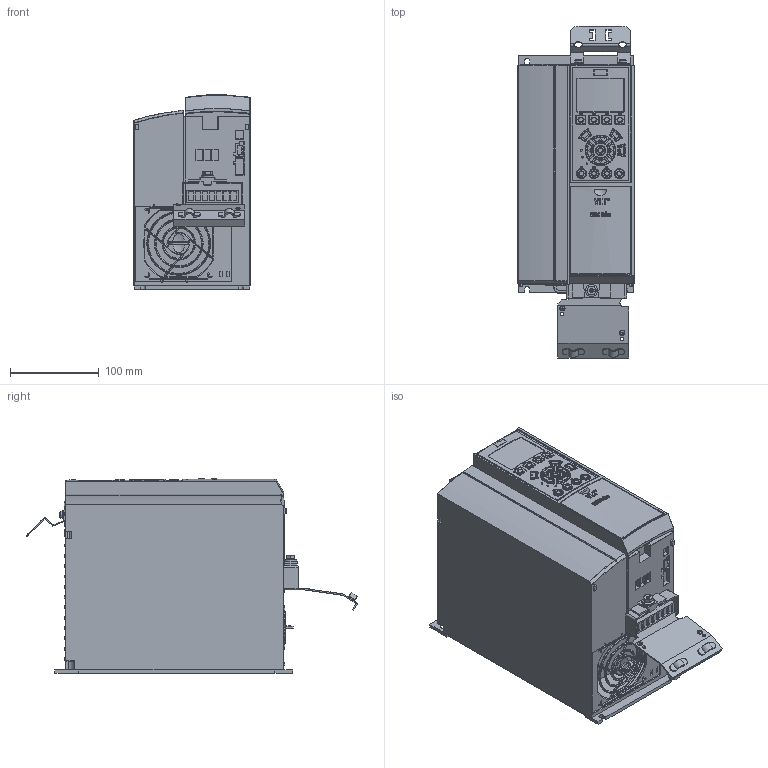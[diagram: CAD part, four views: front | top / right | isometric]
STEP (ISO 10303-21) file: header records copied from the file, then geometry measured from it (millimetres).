
FILE_DESCRIPTION((''),'2;1');
FILE_NAME('DANFOSS-FC100-A3-IP20-A-086','2007-03-14T',('VIJAYANANDG'),('dan Drives A/S'),'PRO/ENGINEER BY PARAMETRIC TECHNOLOGY CORPORATION, 2006200','PRO/ENGINEER BY PARAMETRIC TECHNOLOGY CORPORATION, 2006200','');
FILE_SCHEMA(('CONFIG_CONTROL_DESIGN', 'GEOMETRIC_VALIDATION_PROPERTIES_MIM'));
Products named in the file (1): DANFOSS-FC100-A3-IP20-A-086
Bounding box: 131.03 x 374 x 219.5 mm (x, y, z)
Volume: 6428987.6 mm3; surface area: 312557.4 mm2
Topology: 16 solids, 33 shells, 3188 faces, 7895 edges, 4795 vertices
Faces by surface type: cylinder 1047, plane 926, bspline 692, torus 281, sphere 96, extrusion 89, cone 57
Entity records: 172781 total; most frequent: CARTESIAN_POINT 58807, ORIENTED_EDGE 15728, DIRECTION 12175, PRESENTATION_STYLE_ASSIGNMENT 10568, STYLED_ITEM 8376, CURVE_STYLE 7873, EDGE_CURVE 7864, VERTEX_POINT 4795
